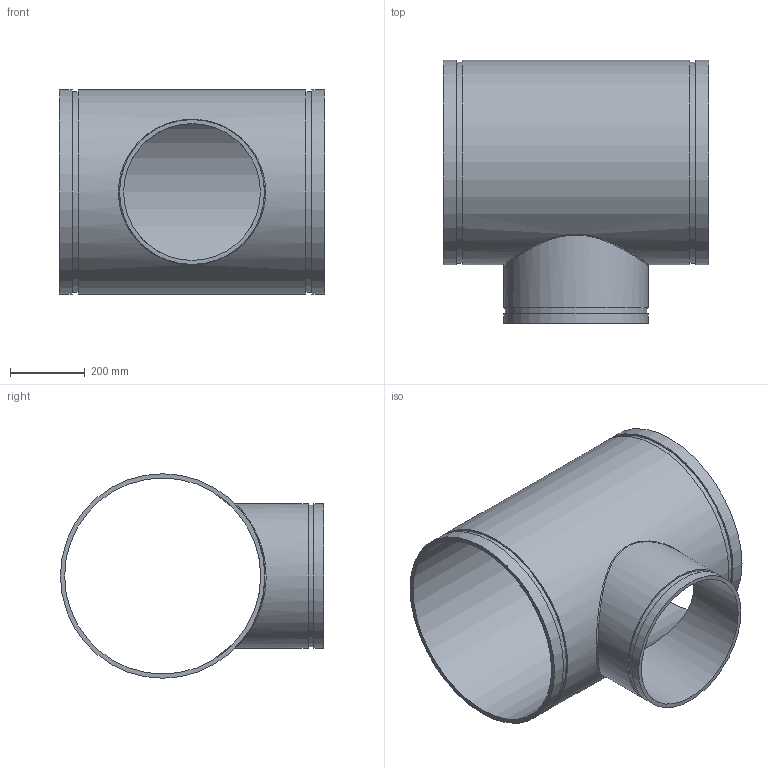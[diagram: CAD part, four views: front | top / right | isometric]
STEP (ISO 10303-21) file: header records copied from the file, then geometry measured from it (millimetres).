
FILE_DESCRIPTION(/* description */ ('VIC REDUCING TEE No 25-C','CAx-IF Rec.Pracs.---Representation and Presentation of Product Manufacturing Information (PMI)---4.0---2014-10-13'),/* implementation_level */ '2;1');
FILE_NAME(/* name */ 'C:\Users\Vjadhav\AppData\Roaming\Autodesk\ApplicationPlugins\Back Up\Victaulic_AWWA_Tee Reducing_No 25-C (DRG)\Victaulic_AWWA_Tee Reducing_No 25-C (DRG)_20.0x14.0 (500x350).stp',/* time_stamp */ '2020-08-18T18:18:44+06:00',/* author */ ('CORINNE GRAY'),/* organization */ ('Victaulic'),/* preprocessor_version */ 'ST-DEVELOPER v17.2',/* originating_system */ 'Autodesk Inventor 2019',/* authorisation */ '');
FILE_SCHEMA (('AP242_MANAGED_MODEL_BASED_3D_ENGINEERING_MIM_LF { 1 0 10303 442 1 1 4 }'));
Length unit declared in the file: inch
Products named in the file (1): 25C-20.0x14.0
Bounding box: 711.2 x 706.12 x 548.64 mm (x, y, z)
Volume: 14532630.8 mm3; surface area: 2726516 mm2
Topology: 1 solids, 1 shells, 20 faces, 44 edges, 33 vertices
Faces by surface type: cylinder 10, plane 9, bspline 1
Full cylindrical faces by diameter (mm): 367.284 x1, 380.213 x1, 388.62 x2, 525.78 x1, 538.963 x2, 548.64 x3
Entity records: 1097 total; most frequent: CARTESIAN_POINT 473, DIRECTION 135, ORIENTED_EDGE 90, AXIS2_PLACEMENT_3D 62, EDGE_CURVE 45, VERTEX_POINT 34, EDGE_LOOP 31, CIRCLE 29
